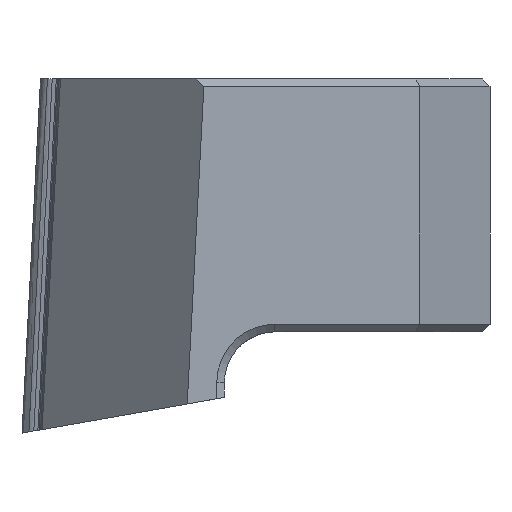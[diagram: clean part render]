
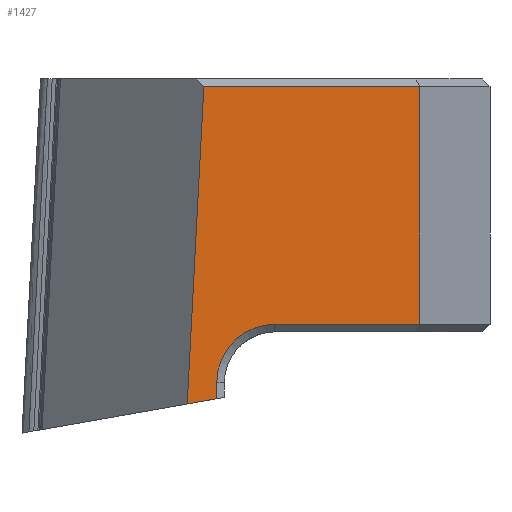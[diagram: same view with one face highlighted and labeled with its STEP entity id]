
A CAD part, left-side view. The second image highlights one B-rep face of the part: STEP entity #1427.
In plain terms, the highlighted planar face has unit normal (-1, 0, 0).
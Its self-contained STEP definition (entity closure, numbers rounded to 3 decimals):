
#15 = EDGE_CURVE ( 'NONE', #1174, #1120, #242, .T. ) ;
#23 = VECTOR ( 'NONE', #1537, 1000. ) ;
#47 = DIRECTION ( 'NONE',  ( 0., 1., 0. ) ) ;
#70 = CARTESIAN_POINT ( 'NONE',  ( -6.55, -15.732, 14. ) ) ;
#94 = CARTESIAN_POINT ( 'NONE',  ( -6.55, -15.732, 4.3 ) ) ;
#97 = ORIENTED_EDGE ( 'NONE', *, *, #611, .T. ) ;
#146 = EDGE_CURVE ( 'NONE', #1446, #1487, #887, .T. ) ;
#155 = LINE ( 'NONE', #667, #1111 ) ;
#242 = CIRCLE ( 'NONE', #327, 2.3 ) ;
#279 = VERTEX_POINT ( 'NONE', #94 ) ;
#327 = AXIS2_PLACEMENT_3D ( 'NONE', #1083, #572, #47 ) ;
#329 = LINE ( 'NONE', #793, #1472 ) ;
#343 = CARTESIAN_POINT ( 'NONE',  ( -6.55, -7.189, 13.7 ) ) ;
#370 = EDGE_CURVE ( 'NONE', #490, #1174, #1175, .T. ) ;
#371 = CARTESIAN_POINT ( 'NONE',  ( -6.55, -15.732, 13.7 ) ) ;
#450 = LINE ( 'NONE', #70, #631 ) ;
#451 = FACE_OUTER_BOUND ( 'NONE', #735, .T. ) ;
#458 = DIRECTION ( 'NONE',  ( 0., 0., -1. ) ) ;
#461 = DIRECTION ( 'NONE',  ( 1., 0., 0. ) ) ;
#490 = VERTEX_POINT ( 'NONE', #1572 ) ;
#491 = VECTOR ( 'NONE', #1246, 1000. ) ;
#515 = VECTOR ( 'NONE', #537, 1000. ) ;
#537 = DIRECTION ( 'NONE',  ( 0., 0., 1. ) ) ;
#572 = DIRECTION ( 'NONE',  ( 1., 0., 0. ) ) ;
#594 = ORIENTED_EDGE ( 'NONE', *, *, #370, .T. ) ;
#600 = LINE ( 'NONE', #1645, #491 ) ;
#611 = EDGE_CURVE ( 'NONE', #1120, #279, #329, .T. ) ;
#631 = VECTOR ( 'NONE', #458, 1000. ) ;
#667 = CARTESIAN_POINT ( 'NONE',  ( -6.55, -7.228, 14.446 ) ) ;
#735 = EDGE_LOOP ( 'NONE', ( #882, #899, #744, #1119, #594, #772, #97 ) ) ;
#744 = ORIENTED_EDGE ( 'NONE', *, *, #749, .T. ) ;
#749 = EDGE_CURVE ( 'NONE', #1487, #764, #155, .T. ) ;
#764 = VERTEX_POINT ( 'NONE', #770 ) ;
#770 = CARTESIAN_POINT ( 'NONE',  ( -6.55, -6.532, 1.152 ) ) ;
#772 = ORIENTED_EDGE ( 'NONE', *, *, #15, .T. ) ;
#793 = CARTESIAN_POINT ( 'NONE',  ( -6.55, -15.732, 4.3 ) ) ;
#847 = DIRECTION ( 'NONE',  ( 0., -1., 0. ) ) ;
#882 = ORIENTED_EDGE ( 'NONE', *, *, #1196, .F. ) ;
#887 = LINE ( 'NONE', #371, #23 ) ;
#899 = ORIENTED_EDGE ( 'NONE', *, *, #146, .T. ) ;
#934 = DIRECTION ( 'NONE',  ( 0., 0.052, -0.999 ) ) ;
#983 = CARTESIAN_POINT ( 'NONE',  ( -6.55, -15.732, 14. ) ) ;
#1046 = CARTESIAN_POINT ( 'NONE',  ( -6.55, -7.7, 14. ) ) ;
#1083 = CARTESIAN_POINT ( 'NONE',  ( -6.55, -10., 2. ) ) ;
#1100 = CARTESIAN_POINT ( 'NONE',  ( -6.55, -15.732, 13.7 ) ) ;
#1111 = VECTOR ( 'NONE', #934, 1000. ) ;
#1119 = ORIENTED_EDGE ( 'NONE', *, *, #1296, .T. ) ;
#1120 = VERTEX_POINT ( 'NONE', #1379 ) ;
#1174 = VERTEX_POINT ( 'NONE', #1506 ) ;
#1175 = LINE ( 'NONE', #1046, #515 ) ;
#1196 = EDGE_CURVE ( 'NONE', #1446, #279, #450, .T. ) ;
#1246 = DIRECTION ( 'NONE',  ( 0., -0.985, 0.174 ) ) ;
#1296 = EDGE_CURVE ( 'NONE', #764, #490, #600, .T. ) ;
#1368 = AXIS2_PLACEMENT_3D ( 'NONE', #983, #461, #1624 ) ;
#1379 = CARTESIAN_POINT ( 'NONE',  ( -6.55, -10., 4.3 ) ) ;
#1427 = ADVANCED_FACE ( 'NONE', ( #451 ), #1617, .F. ) ;
#1446 = VERTEX_POINT ( 'NONE', #1100 ) ;
#1472 = VECTOR ( 'NONE', #847, 1000. ) ;
#1487 = VERTEX_POINT ( 'NONE', #343 ) ;
#1506 = CARTESIAN_POINT ( 'NONE',  ( -6.55, -7.7, 2. ) ) ;
#1537 = DIRECTION ( 'NONE',  ( 0., 1., 0. ) ) ;
#1572 = CARTESIAN_POINT ( 'NONE',  ( -6.55, -7.7, 1.358 ) ) ;
#1617 = PLANE ( 'NONE',  #1368 ) ;
#1624 = DIRECTION ( 'NONE',  ( 0., 1., 0. ) ) ;
#1645 = CARTESIAN_POINT ( 'NONE',  ( -6.55, 0., 0. ) ) ;
